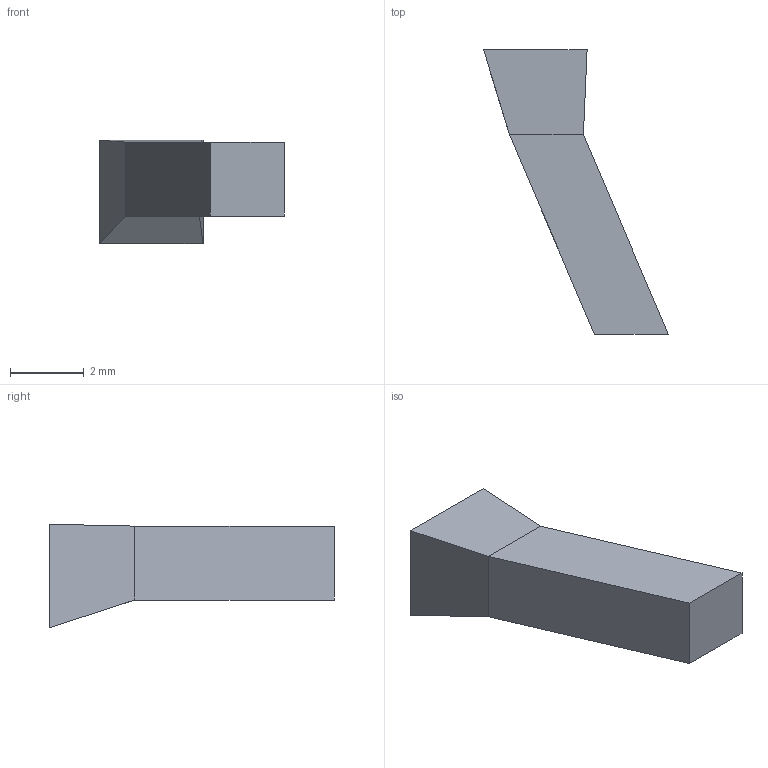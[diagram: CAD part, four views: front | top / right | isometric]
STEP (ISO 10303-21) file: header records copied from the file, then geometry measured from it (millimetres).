
FILE_DESCRIPTION(('Open CASCADE Model'),'2;1');
FILE_NAME('Open CASCADE Shape Model','2026-10-07T16:08:45',('Author'),( 'Open CASCADE'),'Open CASCADE STEP processor 7.9','Open CASCADE 7.9' ,'Unknown');
FILE_SCHEMA(('AUTOMOTIVE_DESIGN { 1 0 10303 214 1 1 1 1 }'));
Length unit declared in the file: millimetre
Products named in the file (1): Open CASCADE STEP translator 7.9 9
Bounding box: 5 x 7.7 x 2.8 mm (x, y, z)
Volume: 35 mm3; surface area: 79.5 mm2
Topology: 1 solids, 1 shells, 10 faces, 20 edges, 12 vertices
Faces by surface type: bspline 6, plane 4
Entity records: 506 total; most frequent: CARTESIAN_POINT 117, DIRECTION 54, LINE 44, VECTOR 44, ORIENTED_EDGE 40, PCURVE 40, DEFINITIONAL_REPRESENTATION 40, EDGE_CURVE 20
